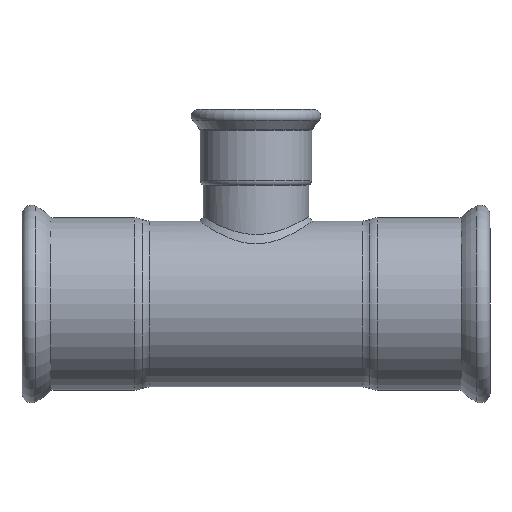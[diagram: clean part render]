
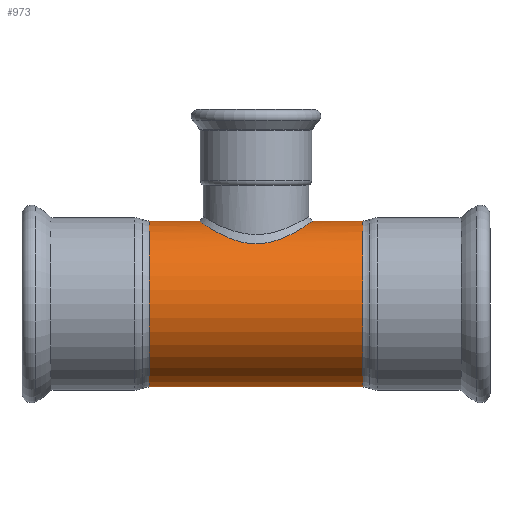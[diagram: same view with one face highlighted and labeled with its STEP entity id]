
A CAD part, front view. The second image highlights one B-rep face of the part: STEP entity #973.
In plain terms, the highlighted cylindrical face has radius 69.85 mm (diameter 139.7 mm), a full revolution.
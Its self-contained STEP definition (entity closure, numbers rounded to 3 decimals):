
#16=FACE_BOUND('',#143,.T.);
#25=B_SPLINE_CURVE_WITH_KNOTS('',3,(#1893,#1894,#1895,#1896,#1897),
 .UNSPECIFIED.,.F.,.F.,(4,1,4),(0.954,0.977,1.),
 .UNSPECIFIED.);
#26=B_SPLINE_CURVE_WITH_KNOTS('',3,(#1898,#1899,#1900,#1901,#1902,#1903,
#1904,#1905,#1906,#1907,#1908,#1909,#1910,#1911,#1912,#1913,#1914,#1915,
#1916,#1917,#1918,#1919,#1920,#1921,#1922,#1923,#1924,#1925,#1926,#1927,
#1928,#1929,#1930,#1931,#1932,#1933,#1934,#1935,#1936,#1937,#1938,#1939,
#1940,#1941,#1942,#1943,#1944,#1945,#1946,#1947,#1948,#1949,#1950,#1951,
#1952,#1953,#1954),.UNSPECIFIED.,.F.,.F.,(4,2,1,1,2,1,2,2,1,2,2,1,1,2,1,
2,2,1,2,2,1,2,1,1,2,2,1,2,2,2,1,1,2,2,1,4),(0.,0.048,0.071,
0.077,0.095,0.107,0.143,
0.192,0.216,0.24,0.289,
0.313,0.325,0.337,0.349,
0.384,0.432,0.454,0.477,
0.525,0.56,0.572,0.584,
0.596,0.62,0.669,0.693,
0.717,0.765,0.814,0.832,
0.838,0.861,0.909,0.932,
0.954),.UNSPECIFIED.);
#96=FACE_OUTER_BOUND('',#142,.T.);
#142=EDGE_LOOP('',(#861,#862,#863,#864,#865,#866,#867,#868));
#143=EDGE_LOOP('',(#869,#870));
#170=LINE('',#2740,#191);
#191=VECTOR('',#1484,69.85);
#275=CIRCLE('',#1105,69.85);
#276=CIRCLE('',#1106,69.85);
#277=CIRCLE('',#1107,69.85);
#304=CIRCLE('',#1144,69.85);
#305=CIRCLE('',#1145,69.85);
#306=CIRCLE('',#1146,69.85);
#357=VERTEX_POINT('',#1890);
#358=VERTEX_POINT('',#1892);
#401=VERTEX_POINT('',#2667);
#402=VERTEX_POINT('',#2669);
#403=VERTEX_POINT('',#2671);
#424=VERTEX_POINT('',#2732);
#425=VERTEX_POINT('',#2734);
#426=VERTEX_POINT('',#2736);
#482=EDGE_CURVE('',#358,#357,#25,.T.);
#483=EDGE_CURVE('',#357,#358,#26,.T.);
#545=EDGE_CURVE('',#401,#402,#275,.T.);
#546=EDGE_CURVE('',#402,#403,#276,.T.);
#547=EDGE_CURVE('',#403,#401,#277,.T.);
#577=EDGE_CURVE('',#425,#424,#304,.T.);
#578=EDGE_CURVE('',#426,#425,#305,.T.);
#579=EDGE_CURVE('',#424,#426,#306,.T.);
#580=EDGE_CURVE('',#402,#426,#170,.T.);
#861=ORIENTED_EDGE('',*,*,#547,.F.);
#862=ORIENTED_EDGE('',*,*,#546,.F.);
#863=ORIENTED_EDGE('',*,*,#580,.T.);
#864=ORIENTED_EDGE('',*,*,#578,.T.);
#865=ORIENTED_EDGE('',*,*,#577,.T.);
#866=ORIENTED_EDGE('',*,*,#579,.T.);
#867=ORIENTED_EDGE('',*,*,#580,.F.);
#868=ORIENTED_EDGE('',*,*,#545,.F.);
#869=ORIENTED_EDGE('',*,*,#483,.T.);
#870=ORIENTED_EDGE('',*,*,#482,.T.);
#932=CYLINDRICAL_SURFACE('',#1147,69.85);
#973=ADVANCED_FACE('',(#96,#16),#932,.T.);
#1105=AXIS2_PLACEMENT_3D('',#2670,#1395,#1396);
#1106=AXIS2_PLACEMENT_3D('',#2672,#1397,#1398);
#1107=AXIS2_PLACEMENT_3D('',#2673,#1399,#1400);
#1144=AXIS2_PLACEMENT_3D('',#2735,#1476,#1477);
#1145=AXIS2_PLACEMENT_3D('',#2737,#1478,#1479);
#1146=AXIS2_PLACEMENT_3D('',#2738,#1480,#1481);
#1147=AXIS2_PLACEMENT_3D('',#2739,#1482,#1483);
#1395=DIRECTION('center_axis',(-1.,0.,0.));
#1396=DIRECTION('ref_axis',(0.,0.,-1.));
#1397=DIRECTION('center_axis',(-1.,0.,0.));
#1398=DIRECTION('ref_axis',(0.,0.,-1.));
#1399=DIRECTION('center_axis',(-1.,0.,0.));
#1400=DIRECTION('ref_axis',(0.,0.,-1.));
#1476=DIRECTION('center_axis',(-1.,0.,0.));
#1477=DIRECTION('ref_axis',(0.,0.,-1.));
#1478=DIRECTION('center_axis',(-1.,0.,0.));
#1479=DIRECTION('ref_axis',(0.,0.,-1.));
#1480=DIRECTION('center_axis',(-1.,0.,0.));
#1481=DIRECTION('ref_axis',(0.,0.,-1.));
#1482=DIRECTION('center_axis',(-1.,0.,0.));
#1483=DIRECTION('ref_axis',(0.,1.,0.));
#1484=DIRECTION('',(1.,0.,0.));
#1890=CARTESIAN_POINT('',(-14.869,-45.678,52.845));
#1892=CARTESIAN_POINT('',(0.,-48.037,50.71));
#1893=CARTESIAN_POINT('Ctrl Pts',(0.001,-48.038,
50.708));
#1894=CARTESIAN_POINT('Ctrl Pts',(-2.61,-48.038,50.708));
#1895=CARTESIAN_POINT('Ctrl Pts',(-7.832,-47.604,51.126));
#1896=CARTESIAN_POINT('Ctrl Pts',(-12.667,-46.394,52.225));
#1897=CARTESIAN_POINT('Ctrl Pts',(-14.869,-45.678,52.845));
#1898=CARTESIAN_POINT('Ctrl Pts',(-14.869,-45.678,52.845));
#1899=CARTESIAN_POINT('Ctrl Pts',(-19.5,-44.17,54.148));
#1900=CARTESIAN_POINT('Ctrl Pts',(-23.857,-41.958,55.94));
#1901=CARTESIAN_POINT('Ctrl Pts',(-29.572,-37.926,58.679));
#1902=CARTESIAN_POINT('Ctrl Pts',(-31.82,-36.077,59.847));
#1903=CARTESIAN_POINT('Ctrl Pts',(-34.987,-32.975,61.597));
#1904=CARTESIAN_POINT('Ctrl Pts',(-36.469,-31.31,62.456));
#1905=CARTESIAN_POINT('Ctrl Pts',(-38.22,-29.121,63.497));
#1906=CARTESIAN_POINT('Ctrl Pts',(-40.986,-25.407,65.174));
#1907=CARTESIAN_POINT('Ctrl Pts',(-43.273,-21.167,66.656));
#1908=CARTESIAN_POINT('Ctrl Pts',(-46.41,-13.32,68.729));
#1909=CARTESIAN_POINT('Ctrl Pts',(-47.546,-8.415,69.514));
#1910=CARTESIAN_POINT('Ctrl Pts',(-48.078,-1.234,69.878));
#1911=CARTESIAN_POINT('Ctrl Pts',(-48.093,3.597,69.888));
#1912=CARTESIAN_POINT('Ctrl Pts',(-47.339,8.511,69.371));
#1913=CARTESIAN_POINT('Ctrl Pts',(-45.704,15.572,68.262));
#1914=CARTESIAN_POINT('Ctrl Pts',(-43.864,20.158,67.024));
#1915=CARTESIAN_POINT('Ctrl Pts',(-40.294,26.254,64.763));
#1916=CARTESIAN_POINT('Ctrl Pts',(-38.308,29.146,63.534));
#1917=CARTESIAN_POINT('Ctrl Pts',(-35.322,32.613,61.79));
#1918=CARTESIAN_POINT('Ctrl Pts',(-33.775,34.176,60.924));
#1919=CARTESIAN_POINT('Ctrl Pts',(-32.164,35.696,60.046));
#1920=CARTESIAN_POINT('Ctrl Pts',(-28.78,38.685,58.245));
#1921=CARTESIAN_POINT('Ctrl Pts',(-24.805,41.288,56.378));
#1922=CARTESIAN_POINT('Ctrl Pts',(-17.418,45.026,53.47));
#1923=CARTESIAN_POINT('Ctrl Pts',(-12.479,46.665,51.987));
#1924=CARTESIAN_POINT('Ctrl Pts',(-5.175,47.817,50.919));
#1925=CARTESIAN_POINT('Ctrl Pts',(0.,48.257,
50.5));
#1926=CARTESIAN_POINT('Ctrl Pts',(5.175,47.817,50.919));
#1927=CARTESIAN_POINT('Ctrl Pts',(12.479,46.665,51.987));
#1928=CARTESIAN_POINT('Ctrl Pts',(17.418,45.026,53.47));
#1929=CARTESIAN_POINT('Ctrl Pts',(24.805,41.288,56.378));
#1930=CARTESIAN_POINT('Ctrl Pts',(28.78,38.685,58.245));
#1931=CARTESIAN_POINT('Ctrl Pts',(32.164,35.696,60.046));
#1932=CARTESIAN_POINT('Ctrl Pts',(33.775,34.176,60.924));
#1933=CARTESIAN_POINT('Ctrl Pts',(35.322,32.613,61.79));
#1934=CARTESIAN_POINT('Ctrl Pts',(38.308,29.146,63.534));
#1935=CARTESIAN_POINT('Ctrl Pts',(40.294,26.254,64.763));
#1936=CARTESIAN_POINT('Ctrl Pts',(43.864,20.158,67.024));
#1937=CARTESIAN_POINT('Ctrl Pts',(45.704,15.572,68.262));
#1938=CARTESIAN_POINT('Ctrl Pts',(47.339,8.511,69.371));
#1939=CARTESIAN_POINT('Ctrl Pts',(48.093,3.597,69.888));
#1940=CARTESIAN_POINT('Ctrl Pts',(48.078,-1.234,69.878));
#1941=CARTESIAN_POINT('Ctrl Pts',(47.546,-8.415,69.514));
#1942=CARTESIAN_POINT('Ctrl Pts',(46.41,-13.319,68.729));
#1943=CARTESIAN_POINT('Ctrl Pts',(42.826,-22.289,66.361));
#1944=CARTESIAN_POINT('Ctrl Pts',(40.37,-26.442,64.776));
#1945=CARTESIAN_POINT('Ctrl Pts',(36.469,-31.31,62.456));
#1946=CARTESIAN_POINT('Ctrl Pts',(34.988,-32.976,61.597));
#1947=CARTESIAN_POINT('Ctrl Pts',(31.82,-36.077,59.847));
#1948=CARTESIAN_POINT('Ctrl Pts',(29.573,-37.926,58.679));
#1949=CARTESIAN_POINT('Ctrl Pts',(23.859,-41.959,55.94));
#1950=CARTESIAN_POINT('Ctrl Pts',(19.499,-44.173,54.147));
#1951=CARTESIAN_POINT('Ctrl Pts',(12.674,-46.394,52.226));
#1952=CARTESIAN_POINT('Ctrl Pts',(7.833,-47.604,51.125));
#1953=CARTESIAN_POINT('Ctrl Pts',(2.612,-48.038,50.708));
#1954=CARTESIAN_POINT('Ctrl Pts',(0.001,-48.038,
50.708));
#2667=CARTESIAN_POINT('',(-89.672,0.,-69.85));
#2669=CARTESIAN_POINT('',(-89.672,-69.85,0.));
#2670=CARTESIAN_POINT('Origin',(-89.672,0.,0.));
#2671=CARTESIAN_POINT('',(-89.672,69.85,0.));
#2672=CARTESIAN_POINT('Origin',(-89.672,0.,0.));
#2673=CARTESIAN_POINT('Origin',(-89.672,0.,0.));
#2732=CARTESIAN_POINT('',(89.672,0.,-69.85));
#2734=CARTESIAN_POINT('',(89.672,69.85,0.));
#2735=CARTESIAN_POINT('Origin',(89.672,0.,0.));
#2736=CARTESIAN_POINT('',(89.672,-69.85,0.));
#2737=CARTESIAN_POINT('Origin',(89.672,0.,0.));
#2738=CARTESIAN_POINT('Origin',(89.672,0.,0.));
#2739=CARTESIAN_POINT('Origin',(79.836,0.,0.));
#2740=CARTESIAN_POINT('',(79.836,-69.85,0.));
